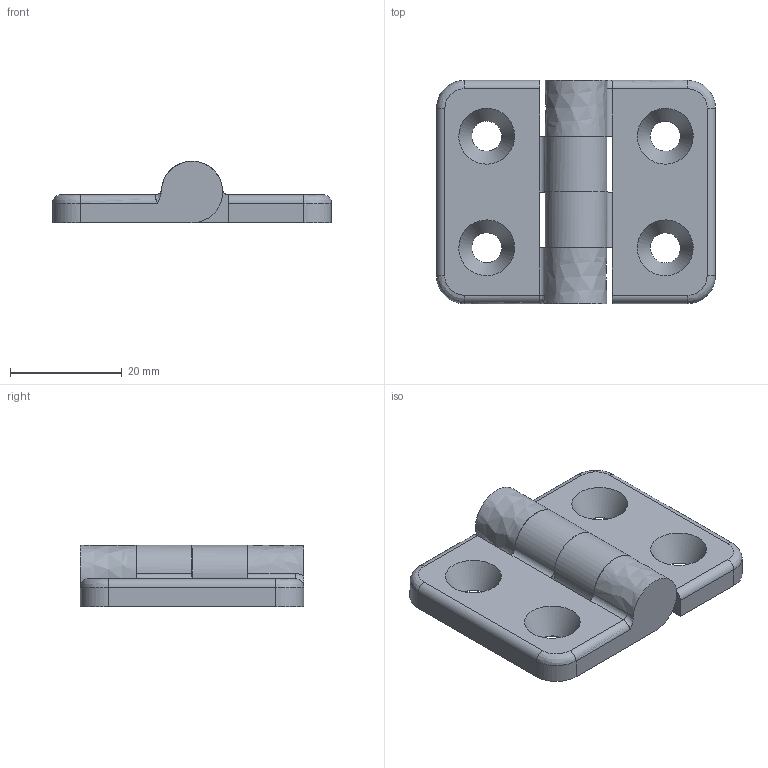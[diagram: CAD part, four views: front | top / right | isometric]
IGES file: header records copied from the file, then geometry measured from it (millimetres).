
Global section: file name: DR_HS4050; native system: Autodesk Inventor 2015; preprocessor: unknown; author: CH.J; date: 20180811.162927; units: millimetre
Bounding box: 50 x 40 x 11 mm (x, y, z)
Volume: 10543 mm3; surface area: 6068.7 mm2
Topology: 2 solids, 2 shells, 52 faces, 138 edges, 90 vertices
Faces by surface type: bspline 52
